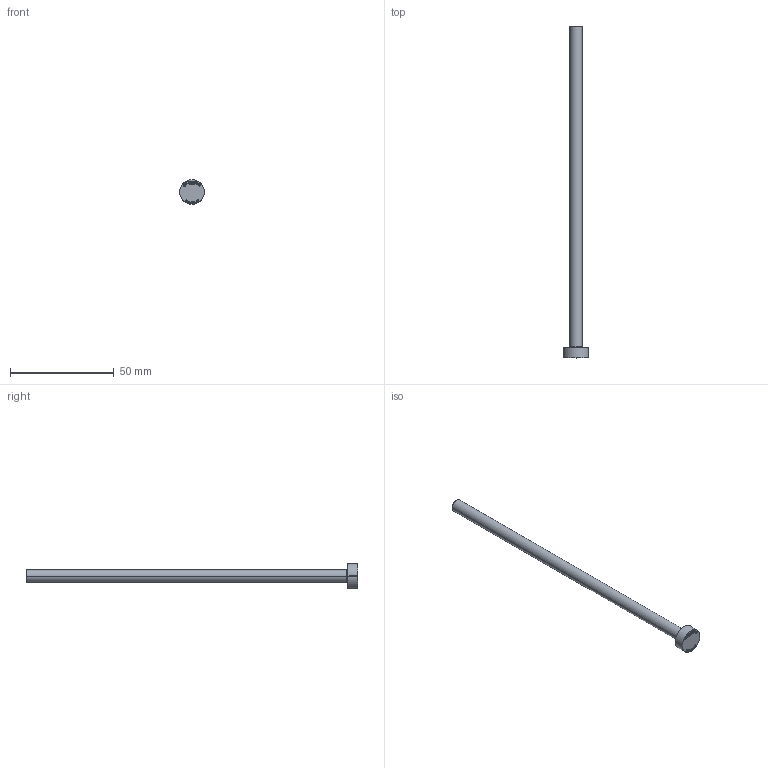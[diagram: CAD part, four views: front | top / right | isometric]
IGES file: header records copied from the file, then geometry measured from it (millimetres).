
Start section: SolidWorks IGES file using analytic representation for surfaces
Global section: file name: C:\Users\User\Downloads\Matripeça 31-08 tar\PB - PINO EXTRATOR TIPO _B_ (CATÁLOGO)\PB06,0\PB06,0160.IGS; native system: SolidWorks 2024; preprocessor: SolidWorks 2024; author: User; date: 260901.143348; units: millimetre
Bounding box: 12 x 160 x 12 mm (x, y, z)
Surface area: 3341.8 mm2 (no closed solid volume)
Topology: 0 solids, 0 shells, 398 faces, 3730 edges, 3730 vertices
Faces by surface type: bspline 384, revolution 14
